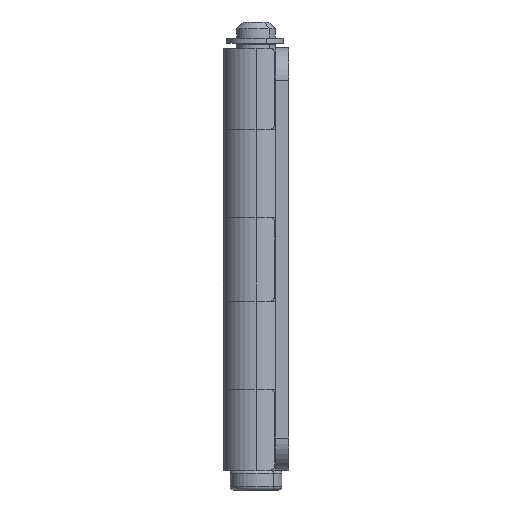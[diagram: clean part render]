
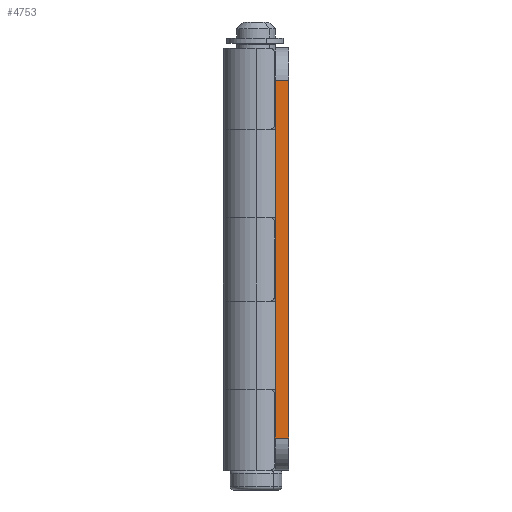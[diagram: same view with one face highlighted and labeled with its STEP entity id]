
A CAD part, left-side view. The second image highlights one B-rep face of the part: STEP entity #4753.
In plain terms, the highlighted planar face has unit normal (-1, 0, 0).
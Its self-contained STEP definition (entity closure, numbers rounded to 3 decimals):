
#14 = DIRECTION ( 'NONE',  ( 0., 1., 0. ) ) ;
#18 = AXIS2_PLACEMENT_3D ( 'NONE', #2113, #2987, #488 ) ;
#53 = LINE ( 'NONE', #846, #2403 ) ;
#241 = CARTESIAN_POINT ( 'NONE',  ( -22., -3., -27.5 ) ) ;
#309 = ORIENTED_EDGE ( 'NONE', *, *, #4592, .F. ) ;
#488 = DIRECTION ( 'NONE',  ( 0., 0., 1. ) ) ;
#506 = CARTESIAN_POINT ( 'NONE',  ( -22., -5., -27.5 ) ) ;
#715 = DIRECTION ( 'NONE',  ( 0., 0., -1. ) ) ;
#846 = CARTESIAN_POINT ( 'NONE',  ( -22., -5., 27.5 ) ) ;
#1224 = CARTESIAN_POINT ( 'NONE',  ( -22., -5., 32.5 ) ) ;
#1554 = LINE ( 'NONE', #1224, #2528 ) ;
#1631 = VECTOR ( 'NONE', #4845, 1000. ) ;
#1650 = DIRECTION ( 'NONE',  ( 0., 0., -1. ) ) ;
#1891 = VERTEX_POINT ( 'NONE', #3769 ) ;
#1975 = VERTEX_POINT ( 'NONE', #506 ) ;
#2113 = CARTESIAN_POINT ( 'NONE',  ( -22., -5., 32.5 ) ) ;
#2126 = FACE_OUTER_BOUND ( 'NONE', #5215, .T. ) ;
#2131 = PLANE ( 'NONE',  #18 ) ;
#2403 = VECTOR ( 'NONE', #14, 1000. ) ;
#2528 = VECTOR ( 'NONE', #1650, 1000. ) ;
#2775 = CARTESIAN_POINT ( 'NONE',  ( -22., -5., -27.5 ) ) ;
#2784 = VERTEX_POINT ( 'NONE', #241 ) ;
#2880 = EDGE_CURVE ( 'NONE', #4695, #2784, #3024, .T. ) ;
#2987 = DIRECTION ( 'NONE',  ( -1., 0., 0. ) ) ;
#3024 = LINE ( 'NONE', #3206, #4262 ) ;
#3206 = CARTESIAN_POINT ( 'NONE',  ( -22., -3., 32.5 ) ) ;
#3769 = CARTESIAN_POINT ( 'NONE',  ( -22., -5., 27.5 ) ) ;
#4262 = VECTOR ( 'NONE', #715, 1000. ) ;
#4331 = EDGE_CURVE ( 'NONE', #2784, #1975, #4840, .T. ) ;
#4335 = ORIENTED_EDGE ( 'NONE', *, *, #4681, .T. ) ;
#4592 = EDGE_CURVE ( 'NONE', #1891, #1975, #1554, .T. ) ;
#4681 = EDGE_CURVE ( 'NONE', #1891, #4695, #53, .T. ) ;
#4695 = VERTEX_POINT ( 'NONE', #5018 ) ;
#4753 = ADVANCED_FACE ( 'NONE', ( #2126 ), #2131, .T. ) ;
#4764 = ORIENTED_EDGE ( 'NONE', *, *, #4331, .T. ) ;
#4840 = LINE ( 'NONE', #2775, #1631 ) ;
#4845 = DIRECTION ( 'NONE',  ( 0., -1., 0. ) ) ;
#5018 = CARTESIAN_POINT ( 'NONE',  ( -22., -3., 27.5 ) ) ;
#5030 = ORIENTED_EDGE ( 'NONE', *, *, #2880, .T. ) ;
#5215 = EDGE_LOOP ( 'NONE', ( #5030, #4764, #309, #4335 ) ) ;
